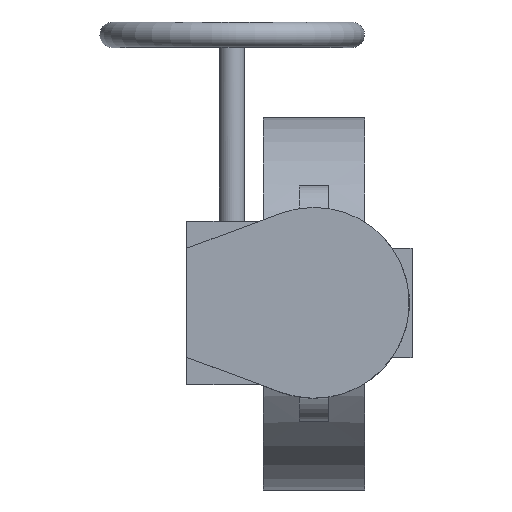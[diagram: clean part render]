
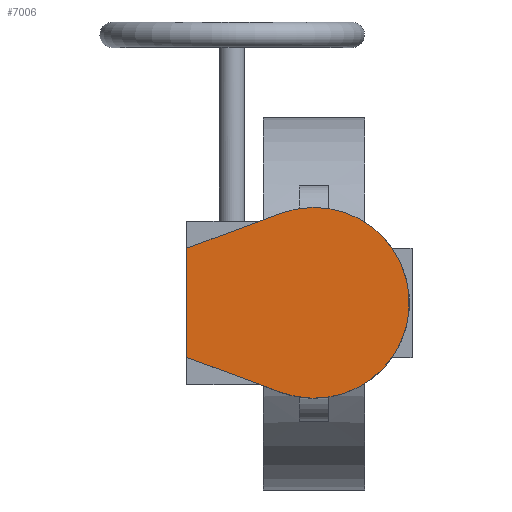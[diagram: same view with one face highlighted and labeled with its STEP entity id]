
A CAD part, top view. The second image highlights one B-rep face of the part: STEP entity #7006.
In plain terms, the highlighted planar face has unit normal (0, 0, 1).
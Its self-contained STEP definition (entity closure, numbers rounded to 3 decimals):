
#7006=ADVANCED_FACE('',(#12695),#12697,.T.);
#12695=FACE_BOUND('',#12696,.T.);
#12696=EDGE_LOOP('',(#17304,#17305,#17306,#17307));
#12697=PLANE('',#12698);
#12698=AXIS2_PLACEMENT_3D('',#12699,#12700,#12701);
#12699=CARTESIAN_POINT('',(0.,0.,291.));
#12700=DIRECTION('',(0.,0.,1.));
#12701=DIRECTION('',(0.,1.,0.));
#17304=ORIENTED_EDGE('',*,*,#19641,.T.);
#17305=ORIENTED_EDGE('',*,*,#19637,.T.);
#17306=ORIENTED_EDGE('',*,*,#19630,.T.);
#17307=ORIENTED_EDGE('',*,*,#19625,.T.);
#19625=EDGE_CURVE('',#23395,#23393,#23396,.T.);
#19630=EDGE_CURVE('',#23403,#23395,#23404,.T.);
#19637=EDGE_CURVE('',#23416,#23403,#23417,.T.);
#19641=EDGE_CURVE('',#23393,#23416,#23422,.T.);
#23393=VERTEX_POINT('',#33472);
#23395=VERTEX_POINT('',#33476);
#23396=LINE('',#33477,#33478);
#23403=VERTEX_POINT('',#33494);
#23404=LINE('',#33495,#33496);
#23416=VERTEX_POINT('',#33521);
#23417=LINE('',#33522,#33523);
#23422=CIRCLE('',#33535,52.5);
#33472=CARTESIAN_POINT('',(-18.284,-49.213,291.));
#33476=CARTESIAN_POINT('',(-70.,-30.,291.));
#33477=CARTESIAN_POINT('',(-70.,-30.,291.));
#33478=VECTOR('',#33479,1.);
#33479=DIRECTION('',(0.937,-0.348,0.));
#33494=CARTESIAN_POINT('',(-70.,30.,291.));
#33495=CARTESIAN_POINT('',(-70.,30.,291.));
#33496=VECTOR('',#33497,1.);
#33497=DIRECTION('',(0.,-1.,0.));
#33521=CARTESIAN_POINT('',(-18.284,49.213,291.));
#33522=CARTESIAN_POINT('',(-18.284,49.213,291.));
#33523=VECTOR('',#33524,1.);
#33524=DIRECTION('',(-0.937,-0.348,0.));
#33535=AXIS2_PLACEMENT_3D('',#33536,#33537,#33538);
#33536=CARTESIAN_POINT('',(0.,0.,291.));
#33537=DIRECTION('',(0.,0.,1.));
#33538=DIRECTION('',(-0.348,-0.937,0.));
